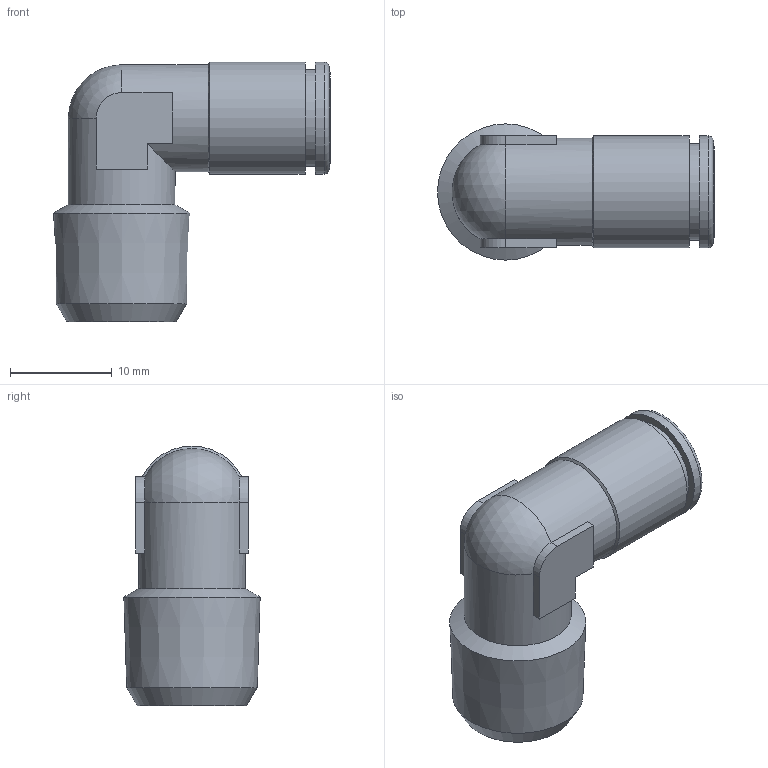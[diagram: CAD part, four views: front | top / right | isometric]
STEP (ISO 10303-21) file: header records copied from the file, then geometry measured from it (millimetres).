
FILE_DESCRIPTION(/* description */ (''),/* implementation_level */ '2;1');
FILE_NAME(/* name */ '201904-ES_STX019_6_R14_09.06.16',/* time_stamp */ '2016-06-09T09:43:39+02:00',/* author */ (''),/* organization */ (''),/* preprocessor_version */ 'ST-DEVELOPER v14',/* originating_system */ 'HiCAD 2013 1802.4 Build 509',/* authorisation */ '');
FILE_SCHEMA (('AUTOMOTIVE_DESIGN { 1 0 10303 214 1 1 1 1 }'));
Length unit declared in the file: millimetre
Products named in the file (3): Root; R201904-ES-N; DR6-1_NEU
Assembly tree (2 placements, depth 2):
  Root
    R201904-ES-N
    DR6-1_NEU
Bounding box: 27.18 x 13.37 x 25.5 mm (x, y, z)
Volume: 2929.9 mm3; surface area: 2820.1 mm2
Topology: 2 solids, 2 shells, 52 faces, 115 edges, 69 vertices
Faces by surface type: plane 20, cone 15, cylinder 15, sphere 1, torus 1
Full cylindrical faces by diameter (mm): 5 x2, 6.1 x1, 6.2 x1, 8.3 x1, 9 x1, 9.5 x1, 9.6 x1, 10.5 x2, 11 x2
Entity records: 2443 total; most frequent: CARTESIAN_POINT 469, DIRECTION 236, PRESENTATION_STYLE_ASSIGNMENT 176, OVER_RIDING_STYLED_ITEM 174, COLOUR_RGB 168, DRAUGHTING_PRE_DEFINED_CURVE_FONT 166, CURVE_STYLE 166, ORIENTED_EDGE 166
